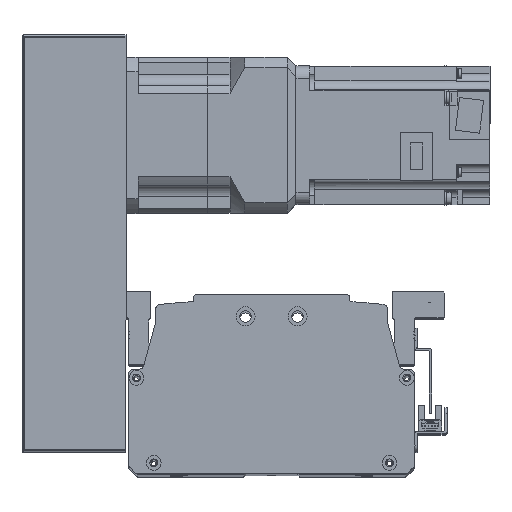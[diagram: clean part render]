
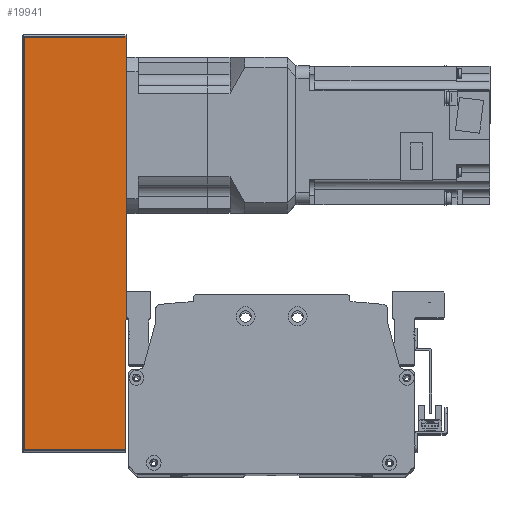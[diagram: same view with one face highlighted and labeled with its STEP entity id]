
A CAD part, top view. The second image highlights one B-rep face of the part: STEP entity #19941.
In plain terms, the highlighted planar face has unit normal (0, 0, 1) as drawn and (0, -1, 0) by its records, which use the part's own axes.
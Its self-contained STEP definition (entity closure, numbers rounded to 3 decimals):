
#589=PLANE('',#21739);
#1710=LINE('',#31995,#3370);
#1733=LINE('',#32082,#3393);
#1734=LINE('',#32090,#3394);
#1742=LINE('',#32116,#3402);
#3370=VECTOR('',#25879,10.);
#3393=VECTOR('',#25990,10.);
#3394=VECTOR('',#26001,10.);
#3402=VECTOR('',#26037,10.);
#5366=FACE_OUTER_BOUND('',#6774,.T.);
#6774=EDGE_LOOP('',(#16200,#16201,#16202,#16203));
#9618=VERTEX_POINT('',#31992);
#9619=VERTEX_POINT('',#31994);
#9639=VERTEX_POINT('',#32078);
#9640=VERTEX_POINT('',#32084);
#11965=EDGE_CURVE('',#9618,#9619,#1710,.T.);
#12010=EDGE_CURVE('',#9619,#9639,#1733,.T.);
#12014=EDGE_CURVE('',#9640,#9618,#1734,.T.);
#12028=EDGE_CURVE('',#9639,#9640,#1742,.T.);
#16200=ORIENTED_EDGE('',*,*,#12010,.F.);
#16201=ORIENTED_EDGE('',*,*,#11965,.F.);
#16202=ORIENTED_EDGE('',*,*,#12014,.F.);
#16203=ORIENTED_EDGE('',*,*,#12028,.F.);
#19941=ADVANCED_FACE('',(#5366),#589,.T.);
#21739=AXIS2_PLACEMENT_3D('',#32121,#26046,#26047);
#25879=DIRECTION('',(1.,0.,0.));
#25990=DIRECTION('',(0.,0.,-1.));
#26001=DIRECTION('',(0.,0.,1.));
#26037=DIRECTION('',(-1.,0.,0.));
#26046=DIRECTION('center_axis',(0.,-1.,0.));
#26047=DIRECTION('ref_axis',(1.,0.,0.));
#31992=CARTESIAN_POINT('',(-119.5,-51.,30.));
#31994=CARTESIAN_POINT('',(119.5,-51.,30.));
#31995=CARTESIAN_POINT('',(120.5,-51.,30.));
#32078=CARTESIAN_POINT('',(119.5,-51.,-29.));
#32082=CARTESIAN_POINT('',(119.5,-51.,0.));
#32084=CARTESIAN_POINT('',(-119.5,-51.,-29.));
#32090=CARTESIAN_POINT('',(-119.5,-51.,0.));
#32116=CARTESIAN_POINT('',(-60.25,-51.,-29.));
#32121=CARTESIAN_POINT('Origin',(-120.5,-51.,0.));
